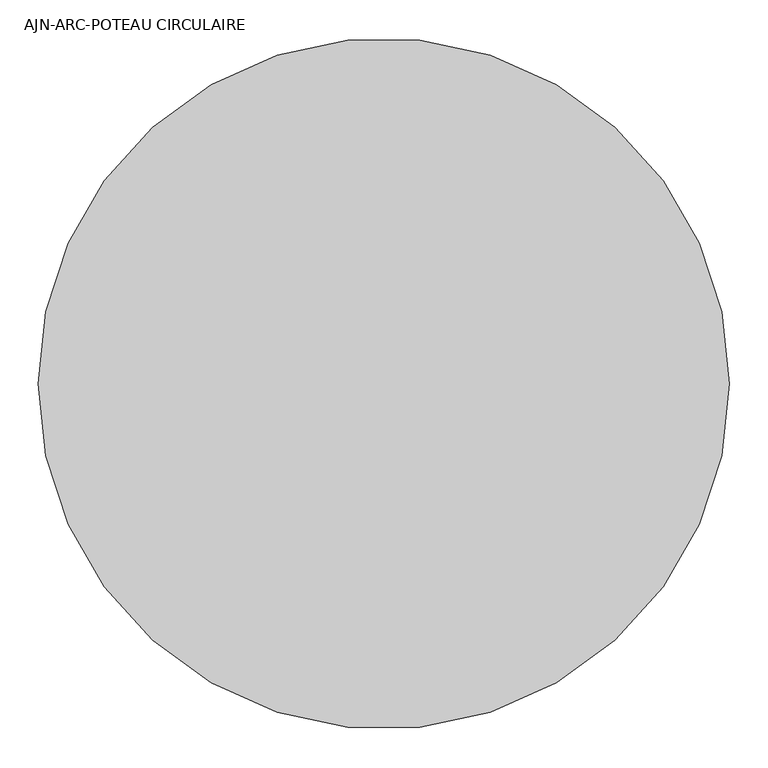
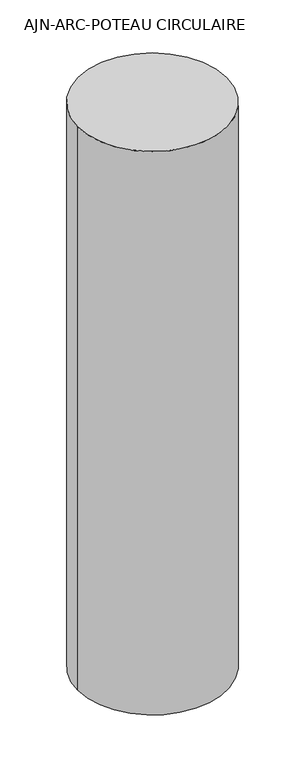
"""IFC4 building model written with IfcOpenShell, lengths in millimetres: column geometry, AJN-ARC-POTEAU CIRCULAIRE : ø90."""

from ifc_helpers import new_model, si_unit, point, frame, origin, origin_2d, place, context, project, spatial, circle_curve, trimmed, segment, composite_curve, outline, extrude, source, transform, mapped, element, save


def ajn_arc_poteau_circulaire_2744f153(model_context):
    return source(origin(), model_context, "Body", "SweptSolid", [
        extrude(outline(composite_curve([segment(trimmed(circle_curve(origin_2d(), 450.0), [point((-450.0, 0.0))], [point((450.0, 0.0))], False, "CARTESIAN"), True, "CONTINUOUS"), segment(trimmed(circle_curve(origin_2d(), 450.0), [point((450.0, 0.0))], [point((-450.0, 0.0))], False, "CARTESIAN"), True, "CONTINUOUS")], self_intersect=False)), frame((0.0, 0.0, 60399.9999686), z_axis=(0.0, 0.0, 1.0), x_axis=(1.0, 0.0, 0.0)), (0.0, 0.0, 1.0), 3600.0),
    ])


if __name__ == "__main__":
    model = new_model("IFC4")
    model_context = context("Model", 3, world=origin())
    ifc_project = project(units=[si_unit("LENGTHUNIT", "METRE", prefix="MILLI")], contexts=[model_context])
    site = spatial("IfcSite", under=ifc_project)
    building = spatial("IfcBuilding", under=site)
    placement = place(None, origin())
    ajn_arc_poteau_circulaire_shape = ajn_arc_poteau_circulaire_2744f153(model_context)
    element("IfcColumn", 1, ObjectType="AJN-ARC-POTEAU CIRCULAIRE : ø90", at=placement, inside=building, context=model_context, shape_type="MappedRepresentation", body=[
        mapped(ajn_arc_poteau_circulaire_shape, transform((0.0, 0.0, 0.0), x_axis=(1.0, 0.0, 0.0), y_axis=(0.0, 1.0, 0.0), z_axis=(0.0, 0.0, 1.0))),
    ])
    save(model, "model.ifc")
